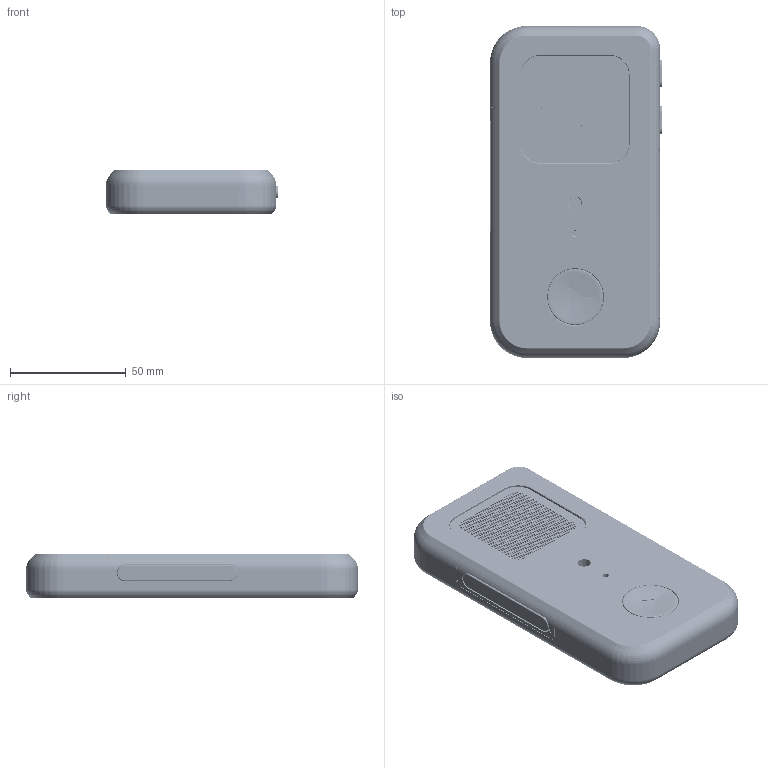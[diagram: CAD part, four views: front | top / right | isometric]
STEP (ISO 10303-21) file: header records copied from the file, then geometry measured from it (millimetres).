
FILE_DESCRIPTION(('Open CASCADE Model'),'2;1');
FILE_NAME('WalkieOne-v30-Polished-R1 Fabrication-All-Custom', '2026-09-21T22:33:20',('Author'),('Open CASCADE'), 'Open CASCADE STEP processor 7.9','build123d','Unknown');
FILE_SCHEMA(('AUTOMOTIVE_DESIGN { 1 0 10303 214 1 1 1 1 }'));
Length unit declared in the file: millimetre
Products named in the file (44): WalkieOne-v30-Polished-R1 Fabrication-All-Custom; MicLED; LED_retainer; LED_soft_pad_reference; Microphone_gasket_reference; PTT; PTT_Link_1; PTT_Link_2; PTT_Pivot_sleeve_fixed_1; PTT_Pivot_sleeve_fixed_2; PTT_Pivot_sleeve_moving_1; PTT_Pivot_sleeve_moving_2; PTT_cap; PTT_switch_retainer; PTT_switch_seat; Play; Play_cap; Play_carrier; Play_foam_reference; Play_retainer; Speaker; Speaker_gasket_reference; Speaker_spacers_reference; USB; USB_collar; USB_liner_primary; USB_liner_backers; USB_liner_floor_sides; USB_liner_inner_returns; Volume; Volume_body_adhesive_reference; Volume_down_cap; Volume_guide_frame; Volume_rear_seat; Volume_up_cap; Enclosure; Back; Front; Grille; Grille_bond_reference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
Assembly tree (43 placements, depth 3):
  WalkieOne-v30-Polished-R1 Fabrication-All-Custom
    MicLED
      LED_retainer
      LED_soft_pad_reference
      Microphone_gasket_reference
    PTT
      PTT_Link_1
      PTT_Link_2
      PTT_Pivot_sleeve_fixed_1
      PTT_Pivot_sleeve_fixed_2
      PTT_Pivot_sleeve_moving_1
      PTT_Pivot_sleeve_moving_2
      PTT_cap
      PTT_switch_retainer
      PTT_switch_seat
    Play
      Play_cap
      Play_carrier
      Play_foam_reference
      Play_retainer
    Speaker
      Speaker_gasket_reference
      Speaker_spacers_reference
    USB
      USB_collar
      USB_liner_primary
      USB_liner_backers
      USB_liner_floor_sides
      USB_liner_inner_returns
    Volume
      Volume_body_adhesive_reference
      Volume_down_cap
      Volume_guide_frame
      Volume_rear_seat
      Volume_up_cap
    Enclosure
      Back
      Front
    Grille
      Grille_bond_reference
      Grille_metal_reference
      Acoustic_backing
    Silicone
      Silicone_surround_MASTER
Bounding box: 74.3 x 143.25 x 19.4 mm (x, y, z)
Volume: 71123.4 mm3; surface area: 92574.1 mm2
Topology: 50 solids, 50 shells, 4483 faces, 12623 edges, 8259 vertices
Faces by surface type: plane 2144, cylinder 1765, cone 284, sphere 110, bspline 105, torus 72, revolution 3
Full cylindrical faces by diameter (mm): 0.6 x6, 0.8 x1153, 0.84 x6, 2.2 x2, 2.3 x14, 2.4 x13, 2.5 x4, 2.6 x7, 2.8 x2, 2.9 x24, 3.6 x1, 4 x5, 4.1 x4, 4.4 x4, 5 x2, 5.5 x1, 5.6 x2, 6.4 x5, 6.5 x1, 6.6 x4, 7.2 x6, 8 x2, 9.4 x1, 12 x1, 18 x1, 19 x1, 19.4 x1, 21.8 x1, 24 x1, 24.5 x1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
Entity records: 156789 total; most frequent: CARTESIAN_POINT 32230, DIRECTION 25197, ORIENTED_EDGE 25168, EDGE_CURVE 12584, AXIS2_PLACEMENT_3D 9169, VERTEX_POINT 8259, FACE_BOUND 6995, EDGE_LOOP 6995
